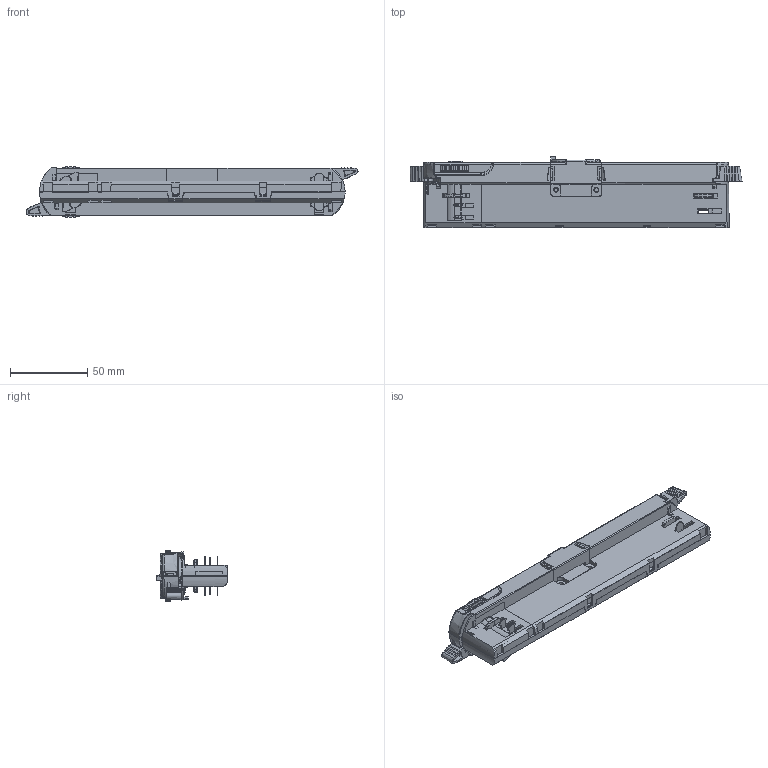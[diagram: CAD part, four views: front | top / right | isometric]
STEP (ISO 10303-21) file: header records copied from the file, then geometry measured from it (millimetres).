
FILE_DESCRIPTION((''),'2;1');
FILE_NAME('DOCUMENT_A_1_2_ASM','2024-12-27T11:22:06',('kg6303'),(''),'CREO PARAMETRIC BY PTC INC, 2023073','CREO PARAMETRIC BY PTC INC, 2023073','');
FILE_SCHEMA(('CONFIG_CONTROL_DESIGN','SHAPE_APPEARANCE_LAYERS_GROUPS'));
Length unit declared in the file: millimetre
Products named in the file (14): G_1_A; 123_1_A_1_2; T2_1_A_1_2; XHX_ASM_A_1_2_ASM; SG__12_A; CP_L_6_1_A_1_2; PJ_ASM_A_1_2_ASM; CP_CP_L1_24_1_A_1_2; CP_CP_L2_48_1_A_1_2; CP_T001_1_1_A_1_2; CP_T002_1_1_A_1_2; P0_ASM_A_1_2_ASM; BREP_1_1_2; DOCUMENT_A_1_2_ASM
Assembly tree (16 placements, depth 3):
  DOCUMENT_A_1_2_ASM
    G_1_A
    XHX_ASM_A_1_2_ASM
      123_1_A_1_2
      T2_1_A_1_2  x2
    SG__12_A
    PJ_ASM_A_1_2_ASM
      CP_L_6_1_A_1_2
    P0_ASM_A_1_2_ASM
      CP_CP_L1_24_1_A_1_2
      CP_CP_L2_48_1_A_1_2
      CP_T001_1_1_A_1_2  x2
      CP_T002_1_1_A_1_2  x2
    BREP_1_1_2
Bounding box: 214.8 x 46.04 x 33.1 mm (x, y, z)
Volume: 34957.2 mm3; surface area: 81314 mm2
Topology: 13 solids, 17 shells, 2242 faces, 6533 edges, 4310 vertices
Faces by surface type: plane 1295, cylinder 648, bspline 115, torus 78, cone 54, extrusion 34, sphere 18
Entity records: 109641 total; most frequent: CARTESIAN_POINT 22308, ORIENTED_EDGE 12789, DIRECTION 10866, PRESENTATION_STYLE_ASSIGNMENT 7922, STYLED_ITEM 7921, CURVE_STYLE 6416, EDGE_CURVE 6400, VERTEX_POINT 4224
